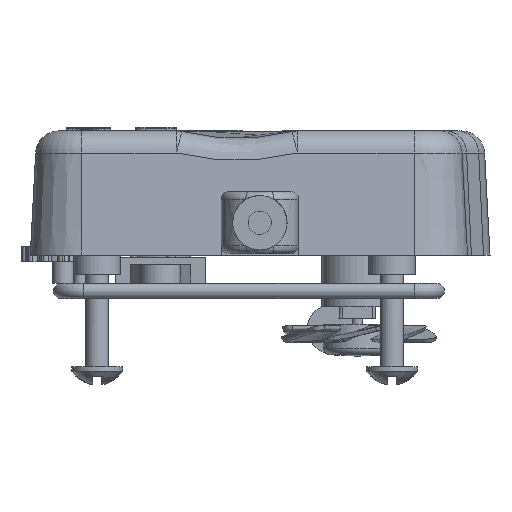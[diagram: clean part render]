
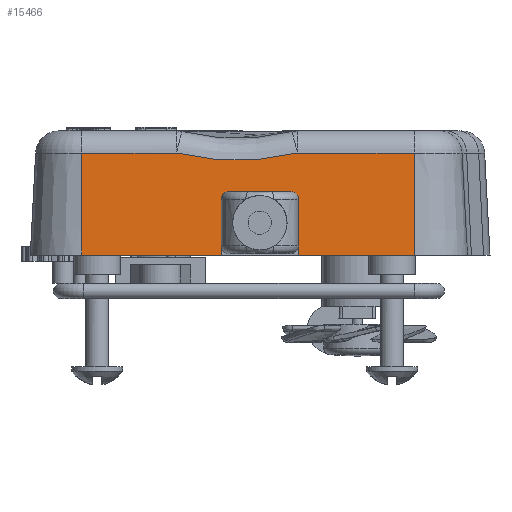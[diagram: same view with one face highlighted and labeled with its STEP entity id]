
A CAD part, left-side view. The second image highlights one B-rep face of the part: STEP entity #15466.
In plain terms, the highlighted planar face has unit normal (-0.999, 0, 0.052).
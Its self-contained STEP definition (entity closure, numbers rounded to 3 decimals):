
#689=ELLIPSE('',#56646,1.001,1.);
#690=ELLIPSE('',#56648,1.001,1.);
#1660=B_SPLINE_CURVE_WITH_KNOTS('',3,(#77470,#77471,#77472,#77473,#77474,
#77475),.UNSPECIFIED.,.F.,.F.,(4,2,4),(0.,0.5,1.),.UNSPECIFIED.);
#1674=B_SPLINE_CURVE_WITH_KNOTS('',3,(#77819,#77820,#77821,#77822),
 .UNSPECIFIED.,.F.,.F.,(4,4),(0.,1.),.UNSPECIFIED.);
#1675=B_SPLINE_CURVE_WITH_KNOTS('',3,(#77825,#77826,#77827,#77828),
 .UNSPECIFIED.,.F.,.F.,(4,4),(0.,1.),.UNSPECIFIED.);
#1694=B_SPLINE_CURVE_WITH_KNOTS('',3,(#77997,#77998,#77999,#78000),
 .UNSPECIFIED.,.F.,.F.,(4,4),(0.,1.),.UNSPECIFIED.);
#4380=LINE('',#76179,#9862);
#4382=LINE('',#76183,#9864);
#4384=LINE('',#76187,#9866);
#4480=LINE('',#77450,#9962);
#4483=LINE('',#77513,#9965);
#4502=LINE('',#77771,#9984);
#4503=LINE('',#77772,#9985);
#9862=VECTOR('',#61721,1.);
#9864=VECTOR('',#61725,1.);
#9866=VECTOR('',#61729,1.);
#9962=VECTOR('',#62205,1.);
#9965=VECTOR('',#62240,1.);
#9984=VECTOR('',#62321,1.);
#9985=VECTOR('',#62322,1.);
#15466=ADVANCED_FACE('',(#20442),#18266,.F.);
#18266=PLANE('',#56939);
#20442=FACE_OUTER_BOUND('',#23360,.T.);
#23360=EDGE_LOOP('',(#28221,#28222,#28223,#28224,#28225,#28226,#28227,#28228,
#28229,#28230,#28231,#28232,#28233));
#28221=ORIENTED_EDGE('',*,*,#47644,.T.);
#28222=ORIENTED_EDGE('',*,*,#47636,.T.);
#28223=ORIENTED_EDGE('',*,*,#47640,.T.);
#28224=ORIENTED_EDGE('',*,*,#47639,.T.);
#28225=ORIENTED_EDGE('',*,*,#47642,.T.);
#28226=ORIENTED_EDGE('',*,*,#47957,.F.);
#28227=ORIENTED_EDGE('',*,*,#48045,.T.);
#28228=ORIENTED_EDGE('',*,*,#47894,.T.);
#28229=ORIENTED_EDGE('',*,*,#47902,.T.);
#28230=ORIENTED_EDGE('',*,*,#47911,.T.);
#28231=ORIENTED_EDGE('',*,*,#47982,.T.);
#28232=ORIENTED_EDGE('',*,*,#47984,.T.);
#28233=ORIENTED_EDGE('',*,*,#47958,.F.);
#42248=VERTEX_POINT('',#76168);
#42249=VERTEX_POINT('',#76170);
#42250=VERTEX_POINT('',#76174);
#42251=VERTEX_POINT('',#76176);
#42252=VERTEX_POINT('',#76182);
#42253=VERTEX_POINT('',#76186);
#42450=VERTEX_POINT('',#77434);
#42453=VERTEX_POINT('',#77449);
#42458=VERTEX_POINT('',#77469);
#42461=VERTEX_POINT('',#77512);
#42490=VERTEX_POINT('',#77770);
#42491=VERTEX_POINT('',#77773);
#42513=VERTEX_POINT('',#77823);
#47636=EDGE_CURVE('',#42248,#42249,#689,.T.);
#47639=EDGE_CURVE('',#42250,#42251,#690,.T.);
#47640=EDGE_CURVE('',#42249,#42250,#4380,.T.);
#47642=EDGE_CURVE('',#42251,#42252,#4382,.T.);
#47644=EDGE_CURVE('',#42253,#42248,#4384,.T.);
#47894=EDGE_CURVE('',#42450,#42453,#4480,.T.);
#47902=EDGE_CURVE('',#42453,#42458,#1660,.T.);
#47911=EDGE_CURVE('',#42458,#42461,#4483,.T.);
#47957=EDGE_CURVE('',#42490,#42252,#4502,.T.);
#47958=EDGE_CURVE('',#42253,#42491,#4503,.T.);
#47982=EDGE_CURVE('',#42461,#42513,#1674,.T.);
#47984=EDGE_CURVE('',#42513,#42491,#1675,.T.);
#48045=EDGE_CURVE('',#42490,#42450,#1694,.T.);
#56646=AXIS2_PLACEMENT_3D('',#76171,#61711,#61712);
#56648=AXIS2_PLACEMENT_3D('',#76177,#61717,#61718);
#56939=AXIS2_PLACEMENT_3D('',#78059,#62476,#62477);
#61711=DIRECTION('',(0.999,0.,-0.052));
#61712=DIRECTION('',(-0.052,0.,-0.999));
#61717=DIRECTION('',(0.999,0.,-0.052));
#61718=DIRECTION('',(-0.052,0.,-0.999));
#61721=DIRECTION('',(0.,-1.,0.));
#61725=DIRECTION('',(-0.052,0.,-0.999));
#61729=DIRECTION('',(0.052,0.,0.999));
#62205=DIRECTION('',(0.,1.,0.));
#62240=DIRECTION('',(0.,1.,0.));
#62321=DIRECTION('',(0.,1.,0.));
#62322=DIRECTION('',(0.,1.,0.));
#62476=DIRECTION('',(0.999,0.,-0.052));
#62477=DIRECTION('',(0.052,0.,0.999));
#76168=CARTESIAN_POINT('',(-32.193,2.6,21.5));
#76170=CARTESIAN_POINT('',(-32.141,1.6,22.5));
#76171=CARTESIAN_POINT('',(-32.193,1.6,21.5));
#76174=CARTESIAN_POINT('',(-32.141,-6.4,22.5));
#76176=CARTESIAN_POINT('',(-32.193,-7.4,21.5));
#76177=CARTESIAN_POINT('',(-32.193,-6.4,21.5));
#76179=CARTESIAN_POINT('',(-32.141,-1.931,22.5));
#76182=CARTESIAN_POINT('',(-32.569,-7.4,14.33));
#76183=CARTESIAN_POINT('',(-32.512,-7.4,15.419));
#76186=CARTESIAN_POINT('',(-32.569,2.6,14.33));
#76187=CARTESIAN_POINT('',(-32.512,2.6,15.419));
#77434=CARTESIAN_POINT('',(-31.88,-22.304,27.487));
#77449=CARTESIAN_POINT('',(-31.88,-7.23,27.487));
#77450=CARTESIAN_POINT('',(-31.88,-5.646,27.487));
#77469=CARTESIAN_POINT('',(-31.88,8.367,27.487));
#77470=CARTESIAN_POINT('',(-31.88,-7.23,27.487));
#77471=CARTESIAN_POINT('',(-31.913,-4.658,26.859));
#77472=CARTESIAN_POINT('',(-31.929,-2.068,26.545));
#77473=CARTESIAN_POINT('',(-31.93,3.148,26.534));
#77474=CARTESIAN_POINT('',(-31.913,5.797,26.847));
#77475=CARTESIAN_POINT('',(-31.88,8.367,27.487));
#77512=CARTESIAN_POINT('',(-31.877,20.593,27.487));
#77513=CARTESIAN_POINT('',(-31.88,20.593,27.487));
#77770=CARTESIAN_POINT('',(-32.569,-22.304,14.33));
#77771=CARTESIAN_POINT('',(-32.569,-1.931,14.33));
#77772=CARTESIAN_POINT('',(-32.569,-1.931,14.33));
#77773=CARTESIAN_POINT('',(-32.567,20.593,14.33));
#77819=CARTESIAN_POINT('',(-31.88,20.593,27.487));
#77820=CARTESIAN_POINT('',(-32.043,20.593,24.372));
#77821=CARTESIAN_POINT('',(-32.206,20.593,21.258));
#77822=CARTESIAN_POINT('',(-32.369,20.593,18.143));
#77823=CARTESIAN_POINT('',(-32.369,20.593,18.143));
#77825=CARTESIAN_POINT('',(-32.369,20.593,18.143));
#77826=CARTESIAN_POINT('',(-32.436,20.593,16.872));
#77827=CARTESIAN_POINT('',(-32.503,20.593,15.601));
#77828=CARTESIAN_POINT('',(-32.569,20.593,14.33));
#77997=CARTESIAN_POINT('',(-32.569,-22.304,14.33));
#77998=CARTESIAN_POINT('',(-32.339,-22.304,18.715));
#77999=CARTESIAN_POINT('',(-32.11,-22.304,23.101));
#78000=CARTESIAN_POINT('',(-31.88,-22.304,27.487));
#78059=CARTESIAN_POINT('',(-32.512,-1.931,15.419));
